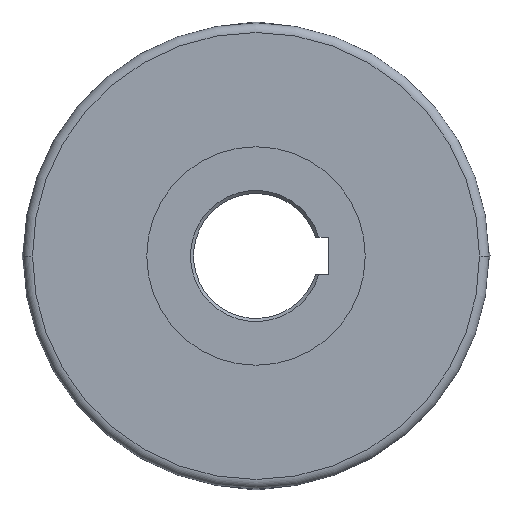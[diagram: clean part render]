
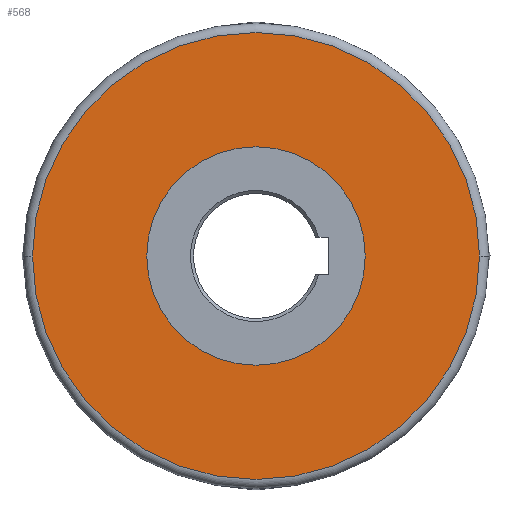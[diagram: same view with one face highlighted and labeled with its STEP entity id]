
A CAD part, left-side view. The second image highlights one B-rep face of the part: STEP entity #568.
In plain terms, the highlighted planar face has unit normal (-1, 0, 0).
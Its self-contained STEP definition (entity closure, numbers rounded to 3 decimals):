
#2=CARTESIAN_POINT('',(-23.,0.,0.));
#3=DIRECTION('',(1.,0.,0.));
#4=DIRECTION('',(0.,1.,0.));
#5=AXIS2_PLACEMENT_3D('',#2,#3,#4);
#15=CARTESIAN_POINT('',(-23.,0.,0.));
#16=DIRECTION('',(-1.,0.,0.));
#17=DIRECTION('',(0.,1.,0.));
#18=AXIS2_PLACEMENT_3D('',#15,#16,#17);
#167=CARTESIAN_POINT('',(-23.,0.,0.));
#168=DIRECTION('',(-1.,0.,0.));
#169=DIRECTION('',(0.,-1.,0.));
#170=AXIS2_PLACEMENT_3D('',#167,#168,#169);
#172=CARTESIAN_POINT('',(-23.,0.,0.));
#173=DIRECTION('',(-1.,0.,0.));
#174=DIRECTION('',(0.,1.,0.));
#175=AXIS2_PLACEMENT_3D('',#172,#173,#174);
#212=CARTESIAN_POINT('',(-23.,35.,0.));
#214=VERTEX_POINT('',#212);
#216=CARTESIAN_POINT('',(-23.,-35.,0.));
#218=VERTEX_POINT('',#216);
#244=CARTESIAN_POINT('',(-23.,-71.597,0.));
#245=CARTESIAN_POINT('',(-23.,71.597,0.));
#246=VERTEX_POINT('',#244);
#247=VERTEX_POINT('',#245);
#554=CARTESIAN_POINT('',(-23.,0.,0.));
#555=DIRECTION('',(1.,0.,0.));
#556=DIRECTION('',(0.,-1.,0.));
#557=AXIS2_PLACEMENT_3D('',#554,#555,#556);
#558=PLANE('',#557);
#560=ORIENTED_EDGE('',*,*,#559,.F.);
#561=ORIENTED_EDGE('',*,*,#544,.F.);
#562=EDGE_LOOP('',(#560,#561));
#563=FACE_OUTER_BOUND('',#562,.F.);
#564=ORIENTED_EDGE('',*,*,#267,.F.);
#565=ORIENTED_EDGE('',*,*,#285,.T.);
#566=EDGE_LOOP('',(#564,#565));
#567=FACE_BOUND('',#566,.F.);
#568=ADVANCED_FACE('',(#563,#567),#558,.F.);
#6=CIRCLE('',#5,35.);
#19=CIRCLE('',#18,35.);
#171=CIRCLE('',#170,71.597);
#176=CIRCLE('',#175,71.597);
#267=EDGE_CURVE('',#214,#218,#6,.T.);
#285=EDGE_CURVE('',#214,#218,#19,.T.);
#544=EDGE_CURVE('',#247,#246,#176,.T.);
#559=EDGE_CURVE('',#246,#247,#171,.T.);
